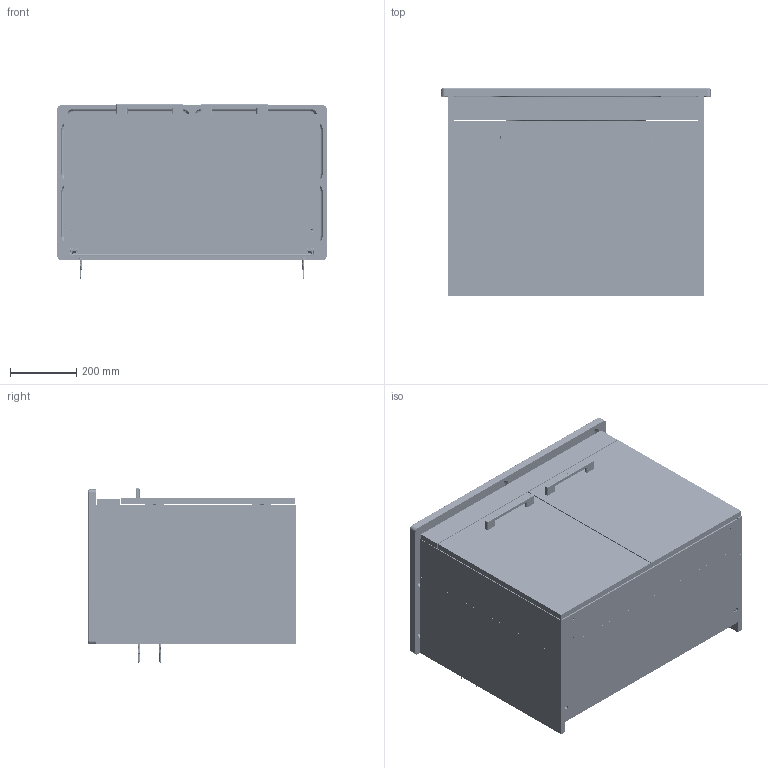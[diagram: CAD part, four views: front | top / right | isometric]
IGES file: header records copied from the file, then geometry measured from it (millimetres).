
Global section: file name: Snap Lavabo Dolabı 80cm,; native system: Autodesk Inventor 2024; preprocessor: unknown; author: pc11; date: 20260624.135040; units: millimetre
Bounding box: 810 x 625 x 528.05 mm (x, y, z)
Volume: 31436934 mm3; surface area: 4511410.7 mm2
Topology: 101 solids, 105 shells, 8731 faces, 23834 edges, 15250 vertices
Faces by surface type: bspline 8731
